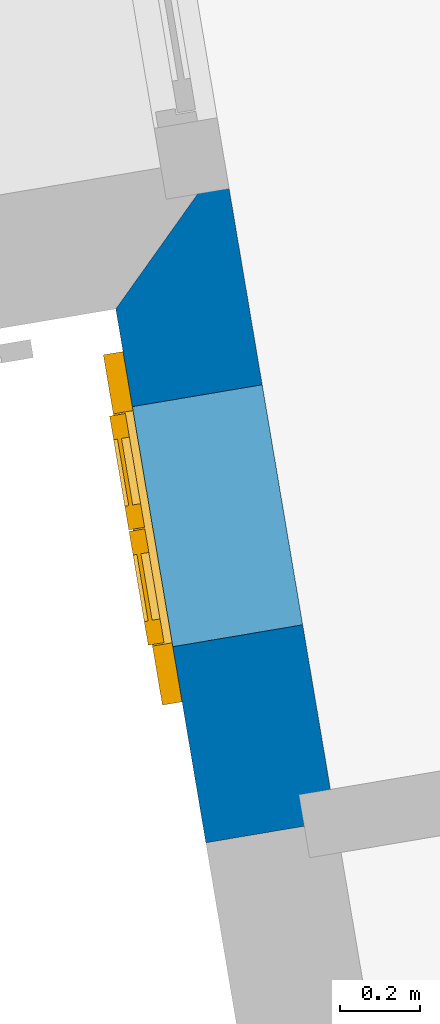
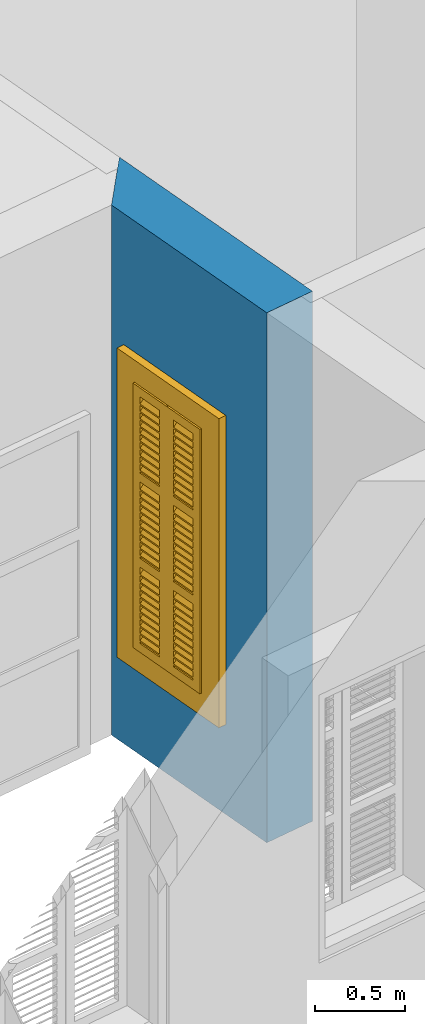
# One storey, part 10 of 15: 1 wall, 1 window, 1 opening.
"""IFC4 building model written with IfcOpenShell, lengths in metres."""

from ifc_helpers import new_model, si_unit, frame, origin, origin_with_axes, place, context, subcontext, project, spatial, polyline, outline, extrude, faceted_brep, source, transform, mapped, material, layer, layer_set, layer_usage, type_object, type_shapes, element, fill, save


model = new_model("IFC4")

# Units and contexts
model_context = context("Model", 3, world=origin_with_axes())
body_context = subcontext(model_context, "Body", "Model", "MODEL_VIEW")
ifc_project = project(units=[si_unit("PLANEANGLEUNIT", "RADIAN"), si_unit("MASSUNIT", "GRAM", prefix="KILO"), si_unit("FORCEUNIT", "NEWTON", prefix="KILO"), si_unit("LENGTHUNIT", "METRE"), si_unit("AREAUNIT", "SQUARE_METRE"), si_unit("VOLUMEUNIT", "CUBIC_METRE")], contexts=[model_context, model_context])

# Site, building, storey
site_placement = place(None, origin_with_axes())
site = spatial("IfcSite", under=ifc_project, at=site_placement, Name="Site plot-6", CompositionType="ELEMENT")
building_placement = place(None, origin_with_axes())
building = spatial("IfcBuilding", under=site, at=building_placement, Name="Building plot-6", CompositionType="ELEMENT")
storey_placement = place(None, origin_with_axes())
storey = spatial("IfcBuildingStorey", under=building, at=storey_placement, Name="plot-6 0", CompositionType="ELEMENT", Elevation=0.0)

# Wall, opening, window
ifc_material = material(Name="Masonry")
ifc_layer = layer(ifc_material, 0.33, ventilated=False)
ifc_layer_set = layer_set([ifc_layer], Name="exterior_0.08_0.25")
ifc_layer_usage = layer_usage(ifc_layer_set, "AXIS2", "POSITIVE", -0.25)
wall_type = type_object("IfcWallType", Name="exterior_0.08_0.25", PredefinedType="SOLIDWALL", material=ifc_layer_set)
wall_placement = place(storey_placement, frame((-3.0138636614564, 3.32831348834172, 0.0), z_axis=(0.0, 0.0, 1.0), x_axis=(0.16629262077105, -0.986076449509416, 0.0)))
wall = element("IfcWall", 1, at=wall_placement, inside=storey, type_object=wall_type, material=ifc_layer_usage, Name="exterior", context=body_context, shape_type="SweptSolid", body=[
    extrude(outline(polyline([(-0.0800000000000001, 0.0800000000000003), (0.250000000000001, -0.25), (1.60673624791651, -0.25), (1.60673624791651, 0.0799999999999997), (-0.0800000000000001, 0.0800000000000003)])), origin_with_axes(), (0.0, 0.0, 1.0), 3.6),
])
opening_placement = place(wall_placement, frame((0.498368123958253, 0.0, 0.75)))
opening = element("IfcOpeningElement", 2, at=opening_placement, cuts=wall, Name="My Opening", ObjectType="Opening", context=body_context, shape_type="SweptSolid", body=[
    extrude(outline(polyline([(0.0, -0.27), (0.61, -0.27), (0.610000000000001, 1.1), (1.11022302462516e-16, 1.1), (0.0, -0.27)])), origin_with_axes(), (0.0, 0.0, 1.0), 1.82),
])
window_type = type_object("IfcWindowType", Name="shuttered_big_narrow", PartitioningType="DOUBLE_PANEL_HORIZONTAL", PredefinedType="NOTDEFINED")
shared_shape = source(origin(), body_context, "Body", "Brep", [
    faceted_brep([(0.074, 0.0, 0.810667), (0.243, 0.0, 0.810667), (0.243, 0.0, 0.800667), (0.074, 0.0, 0.800667), (0.074, -0.04, 0.770667), (0.243, -0.04, 0.770667), (0.243, -0.04, 0.760667), (0.074, -0.04, 0.760667), (0.367, 0.0, 0.232), (0.536, 0.0, 0.232), (0.536, 0.0, 0.222), (0.367, 0.0, 0.222), (0.367, -0.04, 0.192), (0.536, -0.04, 0.192), (0.536, -0.04, 0.182), (0.367, -0.04, 0.182), (0.367, 0.0, 0.532), (0.536, 0.0, 0.532), (0.536, 0.0, 0.522), (0.367, 0.0, 0.522), (0.367, -0.04, 0.492), (0.536, -0.04, 0.492), (0.536, -0.04, 0.482), (0.367, -0.04, 0.482), (0.367, 0.0, 0.482), (0.536, 0.0, 0.482), (0.536, 0.0, 0.472), (0.367, 0.0, 0.472), (0.367, -0.04, 0.442), (0.536, -0.04, 0.442), (0.536, -0.04, 0.432), (0.367, -0.04, 0.432), (0.367, 0.0, 0.582), (0.536, 0.0, 0.582), (0.536, 0.0, 0.572), (0.367, 0.0, 0.572), (0.367, -0.04, 0.542), (0.536, -0.04, 0.542), (0.536, -0.04, 0.532), (0.367, -0.04, 0.532), (0.367, 0.0, 0.182), (0.536, 0.0, 0.182), (0.536, 0.0, 0.172), (0.367, 0.0, 0.172), (0.367, -0.04, 0.142), (0.536, -0.04, 0.142), (0.536, -0.04, 0.132), (0.367, -0.04, 0.132), (0.367, 0.0, 0.382), (0.536, 0.0, 0.382), (0.536, 0.0, 0.372), (0.367, 0.0, 0.372), (0.367, -0.04, 0.342), (0.536, -0.04, 0.342), (0.536, -0.04, 0.332), (0.367, -0.04, 0.332), (0.367, 0.0, 0.432), (0.536, 0.0, 0.432), (0.536, 0.0, 0.422), (0.367, 0.0, 0.422), (0.367, -0.04, 0.392), (0.536, -0.04, 0.392), (0.536, -0.04, 0.382), (0.367, -0.04, 0.382), (0.367, 0.0, 0.132), (0.536, 0.0, 0.132), (0.536, 0.0, 0.122), (0.367, 0.0, 0.122), (0.367, -0.04, 0.092), (0.536, -0.04, 0.092), (0.536, -0.04, 0.082), (0.367, -0.04, 0.082), (0.367, 0.0, 0.282), (0.536, 0.0, 0.282), (0.536, 0.0, 0.272), (0.367, 0.0, 0.272), (0.367, -0.04, 0.242), (0.536, -0.04, 0.242), (0.536, -0.04, 0.232), (0.367, -0.04, 0.232), (0.367, 0.0, 0.332), (0.536, 0.0, 0.332), (0.536, 0.0, 0.322), (0.367, 0.0, 0.322), (0.367, -0.04, 0.292), (0.536, -0.04, 0.292), (0.536, -0.04, 0.282), (0.367, -0.04, 0.282), (0.367, 0.0, 0.810667), (0.536, 0.0, 0.810667), (0.536, 0.0, 0.800667), (0.367, 0.0, 0.800667), (0.367, -0.04, 0.770667), (0.536, -0.04, 0.770667), (0.536, -0.04, 0.760667), (0.367, -0.04, 0.760667), (0.367, 0.0, 1.110667), (0.536, 0.0, 1.110667), (0.536, 0.0, 1.100667), (0.367, 0.0, 1.100667), (0.367, -0.04, 1.070667), (0.536, -0.04, 1.070667), (0.536, -0.04, 1.060667), (0.367, -0.04, 1.060667), (0.367, 0.0, 1.060667), (0.536, 0.0, 1.060667), (0.536, 0.0, 1.050667), (0.367, 0.0, 1.050667), (0.367, -0.04, 1.020667), (0.536, -0.04, 1.020667), (0.536, -0.04, 1.010667), (0.367, -0.04, 1.010667), (0.367, 0.0, 1.160667), (0.536, 0.0, 1.160667), (0.536, 0.0, 1.150667), (0.367, 0.0, 1.150667), (0.367, -0.04, 1.120667), (0.536, -0.04, 1.120667), (0.536, -0.04, 1.110667), (0.367, -0.04, 1.110667), (0.367, 0.0, 0.760667), (0.536, 0.0, 0.760667), (0.536, 0.0, 0.750667), (0.367, 0.0, 0.750667), (0.367, -0.04, 0.720667), (0.536, -0.04, 0.720667), (0.536, -0.04, 0.710667), (0.367, -0.04, 0.710667), (0.367, 0.0, 0.960667), (0.536, 0.0, 0.960667), (0.536, 0.0, 0.950667), (0.367, 0.0, 0.950667), (0.367, -0.04, 0.920667), (0.536, -0.04, 0.920667), (0.536, -0.04, 0.910667), (0.367, -0.04, 0.910667), (0.367, 0.0, 1.010667), (0.536, 0.0, 1.010667), (0.536, 0.0, 1.0), (0.367, 0.0, 1.0), (0.367, -0.04, 0.970667), (0.536, -0.04, 0.970667), (0.536, -0.04, 0.960667), (0.367, -0.04, 0.960667), (0.367, 0.0, 0.710667), (0.536, 0.0, 0.710667), (0.536, 0.0, 0.700667), (0.367, 0.0, 0.700667), (0.367, -0.04, 0.670667), (0.536, -0.04, 0.670667), (0.536, -0.04, 0.660667), (0.367, -0.04, 0.660667), (0.367, 0.0, 0.860667), (0.536, 0.0, 0.860667), (0.536, 0.0, 0.850667), (0.367, 0.0, 0.850667), (0.367, -0.04, 0.820667), (0.536, -0.04, 0.820667), (0.536, -0.04, 0.810667), (0.367, -0.04, 0.810667), (0.367, 0.0, 0.910667), (0.536, 0.0, 0.910667), (0.536, 0.0, 0.900667), (0.367, 0.0, 0.900667), (0.367, -0.04, 0.870667), (0.536, -0.04, 0.870667), (0.536, -0.04, 0.860667), (0.367, -0.04, 0.860667), (0.367, 0.0, 1.389333), (0.536, 0.0, 1.389333), (0.536, 0.0, 1.379333), (0.367, 0.0, 1.379333), (0.367, -0.04, 1.349333), (0.536, -0.04, 1.349333), (0.536, -0.04, 1.339333), (0.367, -0.04, 1.339333), (0.367, 0.0, 1.689333), (0.536, 0.0, 1.689333), (0.536, 0.0, 1.679333), (0.367, 0.0, 1.679333), (0.367, -0.04, 1.649333), (0.536, -0.04, 1.649333), (0.536, -0.04, 1.639333), (0.367, -0.04, 1.639333), (0.367, 0.0, 1.639333), (0.536, 0.0, 1.639333), (0.536, 0.0, 1.629333), (0.367, 0.0, 1.629333), (0.367, -0.04, 1.599333), (0.536, -0.04, 1.599333), (0.536, -0.04, 1.589333), (0.367, -0.04, 1.589333), (0.367, 0.0, 1.739333), (0.536, 0.0, 1.739333), (0.536, 0.0, 1.729333), (0.367, 0.0, 1.729333), (0.367, -0.04, 1.699333), (0.536, -0.04, 1.699333), (0.536, -0.04, 1.689333), (0.367, -0.04, 1.689333), (0.367, 0.0, 1.339333), (0.536, 0.0, 1.339333), (0.536, 0.0, 1.329333), (0.367, 0.0, 1.329333), (0.367, -0.04, 1.299333), (0.536, -0.04, 1.299333), (0.536, -0.04, 1.289333), (0.367, -0.04, 1.289333), (0.367, 0.0, 1.539333), (0.536, 0.0, 1.539333), (0.536, 0.0, 1.529333), (0.367, 0.0, 1.529333), (0.367, -0.04, 1.499333), (0.536, -0.04, 1.499333), (0.536, -0.04, 1.489333), (0.367, -0.04, 1.489333), (0.367, 0.0, 1.589333), (0.536, 0.0, 1.589333), (0.536, 0.0, 1.579333), (0.367, 0.0, 1.579333), (0.367, -0.04, 1.549333), (0.536, -0.04, 1.549333), (0.536, -0.04, 1.539333), (0.367, -0.04, 1.539333), (0.367, 0.0, 1.289333), (0.536, 0.0, 1.289333), (0.536, 0.0, 1.279333), (0.367, 0.0, 1.279333), (0.367, -0.04, 1.249333), (0.536, -0.04, 1.249333), (0.536, -0.04, 1.239333), (0.367, -0.04, 1.239333), (0.367, 0.0, 1.439333), (0.536, 0.0, 1.439333), (0.536, 0.0, 1.429333), (0.367, 0.0, 1.429333), (0.367, -0.04, 1.399333), (0.536, -0.04, 1.399333), (0.536, -0.04, 1.389333), (0.367, -0.04, 1.389333), (0.367, 0.0, 1.489333), (0.536, 0.0, 1.489333), (0.536, 0.0, 1.479333), (0.367, 0.0, 1.479333), (0.367, -0.04, 1.449333), (0.536, -0.04, 1.449333), (0.536, -0.04, 1.439333), (0.367, -0.04, 1.439333), (0.074, 0.0, 0.232), (0.243, 0.0, 0.232), (0.243, 0.0, 0.222), (0.074, 0.0, 0.222), (0.074, -0.04, 0.192), (0.243, -0.04, 0.192), (0.243, -0.04, 0.182), (0.074, -0.04, 0.182), (0.074, 0.0, 0.532), (0.243, 0.0, 0.532), (0.243, 0.0, 0.522), (0.074, 0.0, 0.522), (0.074, -0.04, 0.492), (0.243, -0.04, 0.492), (0.243, -0.04, 0.482), (0.074, -0.04, 0.482), (0.074, 0.0, 0.482), (0.243, 0.0, 0.482), (0.243, 0.0, 0.472), (0.074, 0.0, 0.472), (0.074, -0.04, 0.442), (0.243, -0.04, 0.442), (0.243, -0.04, 0.432), (0.074, -0.04, 0.432), (0.074, 0.0, 0.582), (0.243, 0.0, 0.582), (0.243, 0.0, 0.572), (0.074, 0.0, 0.572), (0.074, -0.04, 0.542), (0.243, -0.04, 0.542), (0.243, -0.04, 0.532), (0.074, -0.04, 0.532), (0.074, 0.0, 0.182), (0.243, 0.0, 0.182), (0.243, 0.0, 0.172), (0.074, 0.0, 0.172), (0.074, -0.04, 0.142), (0.243, -0.04, 0.142), (0.243, -0.04, 0.132), (0.074, -0.04, 0.132), (0.074, 0.0, 0.382), (0.243, 0.0, 0.382), (0.243, 0.0, 0.372), (0.074, 0.0, 0.372), (0.074, -0.04, 0.342), (0.243, -0.04, 0.342), (0.243, -0.04, 0.332), (0.074, -0.04, 0.332), (0.074, 0.0, 0.432), (0.243, 0.0, 0.432), (0.243, 0.0, 0.422), (0.074, 0.0, 0.422), (0.074, -0.04, 0.392), (0.243, -0.04, 0.392), (0.243, -0.04, 0.382), (0.074, -0.04, 0.382), (0.074, 0.0, 0.132), (0.243, 0.0, 0.132), (0.243, 0.0, 0.122), (0.074, 0.0, 0.122), (0.074, -0.04, 0.092), (0.243, -0.04, 0.092), (0.243, -0.04, 0.082), (0.074, -0.04, 0.082), (0.074, 0.0, 0.282), (0.243, 0.0, 0.282), (0.243, 0.0, 0.272), (0.074, 0.0, 0.272), (0.074, -0.04, 0.242), (0.243, -0.04, 0.242), (0.243, -0.04, 0.232), (0.074, -0.04, 0.232), (0.074, 0.0, 0.332), (0.243, 0.0, 0.332), (0.243, 0.0, 0.322), (0.074, 0.0, 0.322), (0.074, -0.04, 0.292), (0.243, -0.04, 0.292), (0.243, -0.04, 0.282), (0.074, -0.04, 0.282), (0.074, 0.0, 1.110667), (0.243, 0.0, 1.110667), (0.243, 0.0, 1.100667), (0.074, 0.0, 1.100667), (0.074, -0.04, 1.070667), (0.243, -0.04, 1.070667), (0.243, -0.04, 1.060667), (0.074, -0.04, 1.060667), (0.074, 0.0, 1.060667), (0.243, 0.0, 1.060667), (0.243, 0.0, 1.050667), (0.074, 0.0, 1.050667), (0.074, -0.04, 1.020667), (0.243, -0.04, 1.020667), (0.243, -0.04, 1.010667), (0.074, -0.04, 1.010667), (0.074, 0.0, 1.160667), (0.243, 0.0, 1.160667), (0.243, 0.0, 1.150667), (0.074, 0.0, 1.150667), (0.074, -0.04, 1.120667), (0.243, -0.04, 1.120667), (0.243, -0.04, 1.110667), (0.074, -0.04, 1.110667), (0.074, 0.0, 0.760667), (0.243, 0.0, 0.760667), (0.243, 0.0, 0.750667), (0.074, 0.0, 0.750667), (0.074, -0.04, 0.720667), (0.243, -0.04, 0.720667), (0.243, -0.04, 0.710667), (0.074, -0.04, 0.710667), (0.074, 0.0, 0.960667), (0.243, 0.0, 0.960667), (0.243, 0.0, 0.950667), (0.074, 0.0, 0.950667), (0.074, -0.04, 0.920667), (0.243, -0.04, 0.920667), (0.243, -0.04, 0.910667), (0.074, -0.04, 0.910667), (0.074, 0.0, 1.010667), (0.243, 0.0, 1.010667), (0.243, 0.0, 1.0), (0.074, 0.0, 1.0), (0.074, -0.04, 0.970667), (0.243, -0.04, 0.970667), (0.243, -0.04, 0.960667), (0.074, -0.04, 0.960667), (0.074, 0.0, 0.710667), (0.243, 0.0, 0.710667), (0.243, 0.0, 0.700667), (0.074, 0.0, 0.700667), (0.074, -0.04, 0.670667), (0.243, -0.04, 0.670667), (0.243, -0.04, 0.660667), (0.074, -0.04, 0.660667), (0.074, 0.0, 0.860667), (0.243, 0.0, 0.860667), (0.243, 0.0, 0.850667), (0.074, 0.0, 0.850667), (0.074, -0.04, 0.820667), (0.243, -0.04, 0.820667), (0.243, -0.04, 0.810667), (0.074, -0.04, 0.810667), (0.074, 0.0, 0.910667), (0.243, 0.0, 0.910667), (0.243, 0.0, 0.900667), (0.074, 0.0, 0.900667), (0.074, -0.04, 0.870667), (0.243, -0.04, 0.870667), (0.243, -0.04, 0.860667), (0.074, -0.04, 0.860667), (0.074, 0.0, 1.389333), (0.243, 0.0, 1.389333), (0.243, 0.0, 1.379333), (0.074, 0.0, 1.379333), (0.074, -0.04, 1.349333), (0.243, -0.04, 1.349333), (0.243, -0.04, 1.339333), (0.074, -0.04, 1.339333), (0.074, 0.0, 1.689333), (0.243, 0.0, 1.689333), (0.243, 0.0, 1.679333), (0.074, 0.0, 1.679333), (0.074, -0.04, 1.649333), (0.243, -0.04, 1.649333), (0.243, -0.04, 1.639333), (0.074, -0.04, 1.639333), (0.074, 0.0, 1.639333), (0.243, 0.0, 1.639333), (0.243, 0.0, 1.629333), (0.074, 0.0, 1.629333), (0.074, -0.04, 1.599333), (0.243, -0.04, 1.599333), (0.243, -0.04, 1.589333), (0.074, -0.04, 1.589333), (0.074, 0.0, 1.739333), (0.243, 0.0, 1.739333), (0.243, 0.0, 1.729333), (0.074, 0.0, 1.729333), (0.074, -0.04, 1.699333), (0.243, -0.04, 1.699333), (0.243, -0.04, 1.689333), (0.074, -0.04, 1.689333), (0.074, 0.0, 1.339333), (0.243, 0.0, 1.339333), (0.243, 0.0, 1.329333), (0.074, 0.0, 1.329333), (0.074, -0.04, 1.299333), (0.243, -0.04, 1.299333), (0.243, -0.04, 1.289333), (0.074, -0.04, 1.289333), (0.074, 0.0, 1.539333), (0.243, 0.0, 1.539333), (0.243, 0.0, 1.529333), (0.074, 0.0, 1.529333), (0.074, -0.04, 1.499333), (0.243, -0.04, 1.499333), (0.243, -0.04, 1.489333), (0.074, -0.04, 1.489333), (0.074, 0.0, 1.589333), (0.243, 0.0, 1.589333), (0.243, 0.0, 1.579333), (0.074, 0.0, 1.579333), (0.074, -0.04, 1.549333), (0.243, -0.04, 1.549333), (0.243, -0.04, 1.539333), (0.074, -0.04, 1.539333), (0.074, 0.0, 1.289333), (0.243, 0.0, 1.289333), (0.243, 0.0, 1.279333), (0.074, 0.0, 1.279333), (0.074, -0.04, 1.249333), (0.243, -0.04, 1.249333), (0.243, -0.04, 1.239333), (0.074, -0.04, 1.239333), (0.074, 0.0, 1.439333), (0.243, 0.0, 1.439333), (0.243, 0.0, 1.429333), (0.074, 0.0, 1.429333), (0.074, -0.04, 1.399333), (0.243, -0.04, 1.399333), (0.243, -0.04, 1.389333), (0.074, -0.04, 1.389333), (0.074, 0.0, 1.489333), (0.243, 0.0, 1.489333), (0.243, 0.0, 1.479333), (0.074, 0.0, 1.479333), (0.074, -0.04, 1.449333), (0.243, -0.04, 1.449333), (0.243, -0.04, 1.439333), (0.074, -0.04, 1.439333), (0.367, -0.04, 0.072), (0.307, -0.04, 0.012), (0.596, -0.04, 0.012), (0.536, -0.04, 0.072), (0.307, -0.04, 0.590667), (0.367, -0.04, 0.590667), (0.307, 0.0, 0.012), (0.596, 0.0, 0.012), (0.536, -0.04, 0.590667), (0.596, -0.04, 0.590667), (0.536, 0.0, 0.072), (0.367, 0.0, 0.072), (0.307, 0.0, 0.590667), (0.367, 0.0, 0.590667), (0.367, -0.04, 0.650667), (0.307, -0.04, 0.650667), (0.596, 0.0, 0.590667), (0.536, 0.0, 0.590667), (0.536, -0.04, 0.650667), (0.596, -0.04, 0.650667), (0.307, 0.0, 0.650667), (0.307, -0.04, 1.169333), (0.367, -0.04, 1.169333), (0.596, 0.0, 0.650667), (0.536, -0.04, 1.169333), (0.596, -0.04, 1.169333), (0.307, 0.0, 1.169333), (0.367, 0.0, 0.650667), (0.536, 0.0, 0.650667), (0.367, 0.0, 1.169333), (0.367, -0.04, 1.229333), (0.307, -0.04, 1.229333), (0.596, 0.0, 1.169333), (0.536, 0.0, 1.169333), (0.536, -0.04, 1.229333), (0.596, -0.04, 1.229333), (0.307, 0.0, 1.229333), (0.367, -0.04, 1.748), (0.307, -0.04, 1.808), (0.596, 0.0, 1.229333), (0.596, -0.04, 1.808), (0.536, -0.04, 1.748), (0.307, 0.0, 1.808), (0.367, 0.0, 1.229333), (0.536, 0.0, 1.229333), (0.367, 0.0, 1.748), (0.596, 0.0, 1.808), (0.536, 0.0, 1.748), (0.074, -0.04, 0.072), (0.014, -0.04, 0.012), (0.303, -0.04, 0.012), (0.243, -0.04, 0.072), (0.014, -0.04, 0.590667), (0.074, -0.04, 0.590667), (0.014, 0.0, 0.012), (0.303, 0.0, 0.012), (0.243, -0.04, 0.590667), (0.303, -0.04, 0.590667), (0.243, 0.0, 0.072), (0.074, 0.0, 0.072), (0.014, 0.0, 0.590667), (0.074, 0.0, 0.590667), (0.074, -0.04, 0.650667), (0.014, -0.04, 0.650667), (0.303, 0.0, 0.590667), (0.243, 0.0, 0.590667), (0.243, -0.04, 0.650667), (0.303, -0.04, 0.650667), (0.014, 0.0, 0.650667), (0.014, -0.04, 1.169333), (0.074, -0.04, 1.169333), (0.303, 0.0, 0.650667), (0.243, -0.04, 1.169333), (0.303, -0.04, 1.169333), (0.014, 0.0, 1.169333), (0.074, 0.0, 0.650667), (0.243, 0.0, 0.650667), (0.074, 0.0, 1.169333), (0.074, -0.04, 1.229333), (0.014, -0.04, 1.229333), (0.303, 0.0, 1.169333), (0.243, 0.0, 1.169333), (0.243, -0.04, 1.229333), (0.303, -0.04, 1.229333), (0.014, 0.0, 1.229333), (0.074, -0.04, 1.748), (0.014, -0.04, 1.808), (0.303, 0.0, 1.229333), (0.303, -0.04, 1.808), (0.243, -0.04, 1.748), (0.014, 0.0, 1.808), (0.074, 0.0, 1.229333), (0.243, 0.0, 1.229333), (0.074, 0.0, 1.748), (0.303, 0.0, 1.808), (0.243, 0.0, 1.748), (0.0, 0.33, 1.82), (0.61, 0.33, 1.82), (0.55, 0.33, 1.76), (0.06, 0.33, 1.76), (0.75, -0.03, 1.96), (0.75, 0.25, 1.96), (-0.14, 0.25, 1.96), (-0.14, -0.03, 1.96), (0.0, 0.25, 1.82), (0.61, 0.25, 1.82), (0.6, 0.25, 1.81), (0.01, 0.25, 1.81), (0.55, 0.33, 0.06), (0.61, 0.33, 0.0), (0.55, 0.25, 1.76), (0.06, 0.25, 1.76), (0.0, 0.33, 0.0), (0.06, 0.33, 0.06), (0.0, 0.25, 0.0), (0.610046, 0.25, 1.82), (0.61, 0.25, 0.0), (0.55, 0.25, 0.06), (0.06, 0.25, 0.06), (0.6, 0.25, 0.01), (0.6, -0.03, 0.01), (0.6, -0.03, 1.81), (0.01, -0.03, 0.01), (-0.14, -0.03, -0.14), (0.75, -0.03, -0.14), (0.01, -0.03, 1.81), (0.01, 0.25, 0.01), (0.75, 0.25, -0.14), (-0.14, 0.25, -0.14)], [[[0, 1, 2, 3]], [[1, 0, 4, 5]], [[2, 1, 5, 6]], [[6, 7, 3, 2]], [[7, 4, 0, 3]], [[5, 4, 7, 6]], [[8, 9, 10, 11]], [[12, 13, 9, 8]], [[13, 14, 10, 9]], [[14, 15, 11, 10]], [[15, 12, 8, 11]], [[13, 12, 15, 14]], [[16, 17, 18, 19]], [[20, 21, 17, 16]], [[21, 22, 18, 17]], [[22, 23, 19, 18]], [[23, 20, 16, 19]], [[21, 20, 23, 22]], [[24, 25, 26, 27]], [[28, 29, 25, 24]], [[29, 30, 26, 25]], [[30, 31, 27, 26]], [[31, 28, 24, 27]], [[29, 28, 31, 30]], [[32, 33, 34, 35]], [[36, 37, 33, 32]], [[37, 38, 34, 33]], [[38, 39, 35, 34]], [[39, 36, 32, 35]], [[37, 36, 39, 38]], [[40, 41, 42, 43]], [[44, 45, 41, 40]], [[45, 46, 42, 41]], [[46, 47, 43, 42]], [[47, 44, 40, 43]], [[45, 44, 47, 46]], [[48, 49, 50, 51]], [[52, 53, 49, 48]], [[53, 54, 50, 49]], [[54, 55, 51, 50]], [[55, 52, 48, 51]], [[53, 52, 55, 54]], [[56, 57, 58, 59]], [[60, 61, 57, 56]], [[61, 62, 58, 57]], [[62, 63, 59, 58]], [[63, 60, 56, 59]], [[61, 60, 63, 62]], [[64, 65, 66, 67]], [[68, 69, 65, 64]], [[69, 70, 66, 65]], [[70, 71, 67, 66]], [[71, 68, 64, 67]], [[69, 68, 71, 70]], [[72, 73, 74, 75]], [[76, 77, 73, 72]], [[77, 78, 74, 73]], [[78, 79, 75, 74]], [[79, 76, 72, 75]], [[77, 76, 79, 78]], [[80, 81, 82, 83]], [[84, 85, 81, 80]], [[85, 86, 82, 81]], [[86, 87, 83, 82]], [[87, 84, 80, 83]], [[85, 84, 87, 86]], [[88, 89, 90, 91]], [[92, 93, 89, 88]], [[93, 94, 90, 89]], [[94, 95, 91, 90]], [[95, 92, 88, 91]], [[93, 92, 95, 94]], [[96, 97, 98, 99]], [[100, 101, 97, 96]], [[101, 102, 98, 97]], [[102, 103, 99, 98]], [[103, 100, 96, 99]], [[101, 100, 103, 102]], [[104, 105, 106, 107]], [[108, 109, 105, 104]], [[109, 110, 106, 105]], [[110, 111, 107, 106]], [[111, 108, 104, 107]], [[109, 108, 111, 110]], [[112, 113, 114, 115]], [[116, 117, 113, 112]], [[117, 118, 114, 113]], [[118, 119, 115, 114]], [[119, 116, 112, 115]], [[117, 116, 119, 118]], [[120, 121, 122, 123]], [[124, 125, 121, 120]], [[125, 126, 122, 121]], [[126, 127, 123, 122]], [[127, 124, 120, 123]], [[125, 124, 127, 126]], [[128, 129, 130, 131]], [[132, 133, 129, 128]], [[133, 134, 130, 129]], [[134, 135, 131, 130]], [[135, 132, 128, 131]], [[133, 132, 135, 134]], [[136, 137, 138, 139]], [[140, 141, 137, 136]], [[141, 142, 138, 137]], [[142, 143, 139, 138]], [[143, 140, 136, 139]], [[141, 140, 143, 142]], [[144, 145, 146, 147]], [[148, 149, 145, 144]], [[149, 150, 146, 145]], [[150, 151, 147, 146]], [[151, 148, 144, 147]], [[149, 148, 151, 150]], [[152, 153, 154, 155]], [[156, 157, 153, 152]], [[157, 158, 154, 153]], [[158, 159, 155, 154]], [[159, 156, 152, 155]], [[157, 156, 159, 158]], [[160, 161, 162, 163]], [[164, 165, 161, 160]], [[165, 166, 162, 161]], [[166, 167, 163, 162]], [[167, 164, 160, 163]], [[165, 164, 167, 166]], [[168, 169, 170, 171]], [[172, 173, 169, 168]], [[173, 174, 170, 169]], [[174, 175, 171, 170]], [[175, 172, 168, 171]], [[173, 172, 175, 174]], [[176, 177, 178, 179]], [[180, 181, 177, 176]], [[181, 182, 178, 177]], [[182, 183, 179, 178]], [[183, 180, 176, 179]], [[181, 180, 183, 182]], [[184, 185, 186, 187]], [[188, 189, 185, 184]], [[189, 190, 186, 185]], [[190, 191, 187, 186]], [[191, 188, 184, 187]], [[189, 188, 191, 190]], [[192, 193, 194, 195]], [[196, 197, 193, 192]], [[197, 198, 194, 193]], [[198, 199, 195, 194]], [[199, 196, 192, 195]], [[197, 196, 199, 198]], [[200, 201, 202, 203]], [[204, 205, 201, 200]], [[205, 206, 202, 201]], [[206, 207, 203, 202]], [[207, 204, 200, 203]], [[205, 204, 207, 206]], [[208, 209, 210, 211]], [[212, 213, 209, 208]], [[213, 214, 210, 209]], [[214, 215, 211, 210]], [[215, 212, 208, 211]], [[213, 212, 215, 214]], [[216, 217, 218, 219]], [[220, 221, 217, 216]], [[221, 222, 218, 217]], [[222, 223, 219, 218]], [[223, 220, 216, 219]], [[221, 220, 223, 222]], [[224, 225, 226, 227]], [[228, 229, 225, 224]], [[229, 230, 226, 225]], [[230, 231, 227, 226]], [[231, 228, 224, 227]], [[229, 228, 231, 230]], [[232, 233, 234, 235]], [[236, 237, 233, 232]], [[237, 238, 234, 233]], [[238, 239, 235, 234]], [[239, 236, 232, 235]], [[237, 236, 239, 238]], [[240, 241, 242, 243]], [[244, 245, 241, 240]], [[245, 246, 242, 241]], [[246, 247, 243, 242]], [[247, 244, 240, 243]], [[245, 244, 247, 246]], [[248, 249, 250, 251]], [[252, 253, 249, 248]], [[253, 254, 250, 249]], [[254, 255, 251, 250]], [[255, 252, 248, 251]], [[253, 252, 255, 254]], [[256, 257, 258, 259]], [[260, 261, 257, 256]], [[261, 262, 258, 257]], [[262, 263, 259, 258]], [[263, 260, 256, 259]], [[261, 260, 263, 262]], [[264, 265, 266, 267]], [[268, 269, 265, 264]], [[269, 270, 266, 265]], [[270, 271, 267, 266]], [[271, 268, 264, 267]], [[269, 268, 271, 270]], [[272, 273, 274, 275]], [[276, 277, 273, 272]], [[277, 278, 274, 273]], [[278, 279, 275, 274]], [[279, 276, 272, 275]], [[277, 276, 279, 278]], [[280, 281, 282, 283]], [[284, 285, 281, 280]], [[285, 286, 282, 281]], [[286, 287, 283, 282]], [[287, 284, 280, 283]], [[285, 284, 287, 286]], [[288, 289, 290, 291]], [[292, 293, 289, 288]], [[293, 294, 290, 289]], [[294, 295, 291, 290]], [[295, 292, 288, 291]], [[293, 292, 295, 294]], [[296, 297, 298, 299]], [[300, 301, 297, 296]], [[301, 302, 298, 297]], [[302, 303, 299, 298]], [[303, 300, 296, 299]], [[301, 300, 303, 302]], [[304, 305, 306, 307]], [[308, 309, 305, 304]], [[309, 310, 306, 305]], [[310, 311, 307, 306]], [[311, 308, 304, 307]], [[309, 308, 311, 310]], [[312, 313, 314, 315]], [[316, 317, 313, 312]], [[317, 318, 314, 313]], [[318, 319, 315, 314]], [[319, 316, 312, 315]], [[317, 316, 319, 318]], [[320, 321, 322, 323]], [[324, 325, 321, 320]], [[325, 326, 322, 321]], [[326, 327, 323, 322]], [[327, 324, 320, 323]], [[325, 324, 327, 326]], [[328, 329, 330, 331]], [[332, 333, 329, 328]], [[333, 334, 330, 329]], [[334, 335, 331, 330]], [[335, 332, 328, 331]], [[333, 332, 335, 334]], [[336, 337, 338, 339]], [[340, 341, 337, 336]], [[341, 342, 338, 337]], [[342, 343, 339, 338]], [[343, 340, 336, 339]], [[341, 340, 343, 342]], [[344, 345, 346, 347]], [[348, 349, 345, 344]], [[349, 350, 346, 345]], [[350, 351, 347, 346]], [[351, 348, 344, 347]], [[349, 348, 351, 350]], [[352, 353, 354, 355]], [[356, 357, 353, 352]], [[357, 358, 354, 353]], [[358, 359, 355, 354]], [[359, 356, 352, 355]], [[357, 356, 359, 358]], [[360, 361, 362, 363]], [[364, 365, 361, 360]], [[365, 366, 362, 361]], [[366, 367, 363, 362]], [[367, 364, 360, 363]], [[366, 365, 364, 367]], [[368, 369, 370, 371]], [[372, 373, 369, 368]], [[373, 374, 370, 369]], [[374, 375, 371, 370]], [[375, 372, 368, 371]], [[373, 372, 375, 374]], [[376, 377, 378, 379]], [[380, 381, 377, 376]], [[381, 382, 378, 377]], [[382, 383, 379, 378]], [[383, 380, 376, 379]], [[381, 380, 383, 382]], [[384, 385, 386, 387]], [[388, 389, 385, 384]], [[389, 390, 386, 385]], [[390, 391, 387, 386]], [[391, 388, 384, 387]], [[389, 388, 391, 390]], [[392, 393, 394, 395]], [[396, 397, 393, 392]], [[397, 398, 394, 393]], [[398, 399, 395, 394]], [[399, 396, 392, 395]], [[397, 396, 399, 398]], [[400, 401, 402, 403]], [[404, 405, 401, 400]], [[405, 406, 402, 401]], [[406, 407, 403, 402]], [[407, 404, 400, 403]], [[405, 404, 407, 406]], [[408, 409, 410, 411]], [[412, 413, 409, 408]], [[413, 414, 410, 409]], [[414, 415, 411, 410]], [[415, 412, 408, 411]], [[414, 413, 412, 415]], [[416, 417, 418, 419]], [[420, 421, 417, 416]], [[421, 422, 418, 417]], [[422, 423, 419, 418]], [[423, 420, 416, 419]], [[421, 420, 423, 422]], [[424, 425, 426, 427]], [[428, 429, 425, 424]], [[429, 430, 426, 425]], [[430, 431, 427, 426]], [[431, 428, 424, 427]], [[429, 428, 431, 430]], [[432, 433, 434, 435]], [[436, 437, 433, 432]], [[437, 438, 434, 433]], [[438, 439, 435, 434]], [[439, 436, 432, 435]], [[437, 436, 439, 438]], [[440, 441, 442, 443]], [[444, 445, 441, 440]], [[445, 446, 442, 441]], [[446, 447, 443, 442]], [[447, 444, 440, 443]], [[445, 444, 447, 446]], [[448, 449, 450, 451]], [[452, 453, 449, 448]], [[453, 454, 450, 449]], [[454, 455, 451, 450]], [[455, 452, 448, 451]], [[453, 452, 455, 454]], [[456, 457, 458, 459]], [[460, 461, 457, 456]], [[461, 462, 458, 457]], [[462, 463, 459, 458]], [[463, 460, 456, 459]], [[461, 460, 463, 462]], [[464, 465, 466, 467]], [[468, 469, 465, 464]], [[469, 470, 466, 465]], [[470, 471, 467, 466]], [[471, 468, 464, 467]], [[469, 468, 471, 470]], [[472, 473, 474, 475]], [[476, 477, 473, 472]], [[477, 478, 474, 473]], [[478, 479, 475, 474]], [[479, 476, 472, 475]], [[477, 476, 479, 478]], [[480, 481, 482, 483]], [[484, 481, 480, 485]], [[486, 487, 482, 481]], [[488, 483, 482, 489]], [[480, 483, 490, 491]], [[486, 481, 484, 492]], [[485, 480, 491, 493]], [[485, 494, 495, 484]], [[486, 491, 490, 487]], [[496, 489, 482, 487]], [[483, 488, 497, 490]], [[498, 488, 489, 499]], [[492, 484, 495, 500]], [[486, 492, 493, 491]], [[488, 485, 493, 497]], [[494, 485, 488, 498]], [[501, 495, 494, 502]], [[490, 497, 496, 487]], [[503, 499, 489, 496]], [[504, 498, 499, 505]], [[500, 495, 501, 506]], [[507, 493, 492, 500]], [[493, 507, 508, 497]], [[494, 498, 508, 507]], [[502, 494, 507, 509]], [[502, 510, 511, 501]], [[497, 508, 503, 496]], [[512, 505, 499, 503]], [[498, 504, 513, 508]], [[514, 504, 505, 515]], [[506, 501, 511, 516]], [[500, 506, 509, 507]], [[504, 502, 509, 513]], [[510, 502, 504, 514]], [[510, 517, 518, 511]], [[508, 513, 512, 503]], [[519, 515, 505, 512]], [[515, 520, 521, 514]], [[516, 511, 518, 522]], [[523, 509, 506, 516]], [[509, 523, 524, 513]], [[510, 514, 524, 523]], [[517, 510, 523, 525]], [[518, 517, 521, 520]], [[513, 524, 519, 512]], [[526, 520, 515, 519]], [[514, 521, 527, 524]], [[522, 518, 520, 526]], [[525, 523, 516, 522]], [[521, 517, 525, 527]], [[526, 519, 524, 527]], [[525, 522, 526, 527]], [[528, 529, 530, 531]], [[532, 529, 528, 533]], [[534, 535, 530, 529]], [[536, 531, 530, 537]], [[528, 531, 538, 539]], [[534, 529, 532, 540]], [[533, 528, 539, 541]], [[533, 542, 543, 532]], [[534, 539, 538, 535]], [[544, 537, 530, 535]], [[531, 536, 545, 538]], [[546, 536, 537, 547]], [[540, 532, 543, 548]], [[534, 540, 541, 539]], [[536, 533, 541, 545]], [[542, 533, 536, 546]], [[549, 543, 542, 550]], [[538, 545, 544, 535]], [[551, 547, 537, 544]], [[552, 546, 547, 553]], [[548, 543, 549, 554]], [[555, 541, 540, 548]], [[541, 555, 556, 545]], [[542, 546, 556, 555]], [[550, 542, 555, 557]], [[550, 558, 559, 549]], [[545, 556, 551, 544]], [[560, 553, 547, 551]], [[546, 552, 561, 556]], [[562, 552, 553, 563]], [[554, 549, 559, 564]], [[548, 554, 557, 555]], [[552, 550, 557, 561]], [[558, 550, 552, 562]], [[558, 565, 566, 559]], [[556, 561, 560, 551]], [[567, 563, 553, 560]], [[563, 568, 569, 562]], [[564, 559, 566, 570]], [[571, 557, 554, 564]], [[557, 571, 572, 561]], [[558, 562, 572, 571]], [[565, 558, 571, 573]], [[566, 565, 569, 568]], [[561, 572, 567, 560]], [[574, 568, 563, 567]], [[562, 569, 575, 572]], [[570, 566, 568, 574]], [[573, 571, 564, 570]], [[569, 565, 573, 575]], [[574, 567, 572, 575]], [[573, 570, 574, 575]], [[576, 577, 578, 579]], [[580, 581, 582, 583]], [[576, 584, 585, 577]], [[582, 581, 586, 587]], [[588, 578, 577, 589]], [[579, 578, 590, 591]], [[592, 576, 579, 593]], [[576, 592, 594, 584]], [[595, 584, 591, 590]], [[596, 585, 595]], [[595, 590, 597]], [[595, 597, 596]], [[589, 577, 585, 596]], [[578, 588, 597, 590]], [[589, 592, 593, 588]], [[593, 579, 591, 598]], [[592, 589, 596, 594]], [[598, 591, 584, 594]], [[594, 596, 597, 598]], [[588, 593, 598, 597]], [[599, 600, 601, 586]], [[602, 603, 604, 600]], [[601, 605, 587, 586]], [[600, 599, 606, 602]], [[607, 604, 603, 608]], [[599, 607, 608, 606]], [[605, 602, 606, 587]], [[602, 605, 583, 603]], [[600, 604, 580, 601]], [[580, 583, 605, 601]], [[606, 608, 582, 587]], [[599, 586, 581, 607]], [[582, 608, 603, 583]], [[580, 604, 607, 581]]]),
])
type_shapes(window_type, [shared_shape])
window_placement = place(storey_placement, frame((-3.19722936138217, 2.79198541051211, 0.75), z_axis=(0.0, 0.0, 1.0), x_axis=(0.10143849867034, -0.601506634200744, 0.0)))
window = element("IfcWindow", 3, at=window_placement, inside=storey, type_object=window_type, Name="bedroom sahn window", OverallHeight=1.82, OverallWidth=0.61, context=body_context, shape_type="MappedRepresentation", body=[
    mapped(shared_shape, transform((0.0, 0.0, 0.0), scale=1.0)),
])
fill(opening, window)

save(model, "model.ifc")
